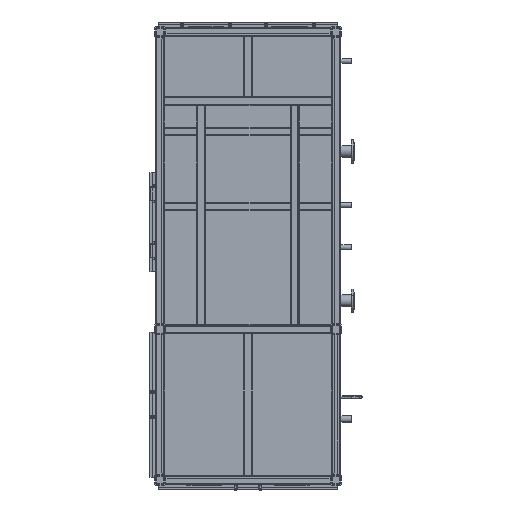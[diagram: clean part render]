
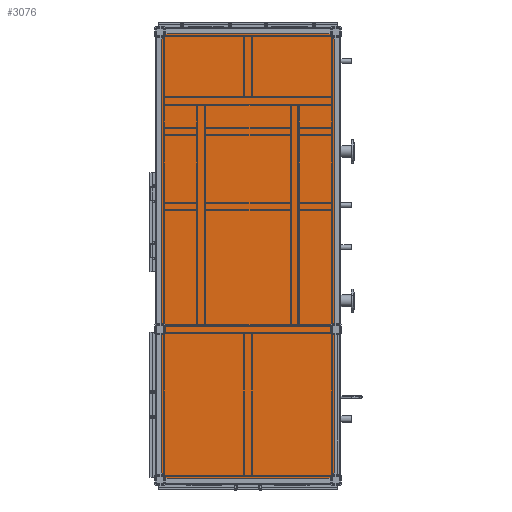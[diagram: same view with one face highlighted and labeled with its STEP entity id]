
A CAD part, front view. The second image highlights one B-rep face of the part: STEP entity #3076.
In plain terms, the highlighted planar face has unit normal (0, -1, 0).
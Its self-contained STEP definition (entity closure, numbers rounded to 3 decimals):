
#3076=ADVANCED_FACE('',(#33868),#33870,.F.);
#33868=FACE_BOUND('',#33869,.T.);
#33869=EDGE_LOOP('',(#90163,#90164,#90165,#90166,#90167,#90168,#90169,#90170,#90171,
#90172,#90173,#90174,#90175,#90176,#90177,#90178,#90179,#90180,#90181,#90182));
#33870=PLANE('',#33871);
#33871=AXIS2_PLACEMENT_3D('',#33872,#33873,#33874);
#33872=CARTESIAN_POINT('',(-1645.,-81.5,-3945.));
#33873=DIRECTION('',(0.,1.,0.));
#33874=DIRECTION('',(1.,0.,0.));
#90163=ORIENTED_EDGE('',*,*,#110924,.F.);
#90164=ORIENTED_EDGE('',*,*,#110922,.F.);
#90165=ORIENTED_EDGE('',*,*,#110541,.F.);
#90166=ORIENTED_EDGE('',*,*,#110817,.F.);
#90167=ORIENTED_EDGE('',*,*,#110500,.F.);
#90168=ORIENTED_EDGE('',*,*,#110507,.F.);
#90169=ORIENTED_EDGE('',*,*,#110504,.T.);
#90170=ORIENTED_EDGE('',*,*,#112711,.T.);
#90171=ORIENTED_EDGE('',*,*,#112712,.T.);
#90172=ORIENTED_EDGE('',*,*,#112713,.T.);
#90173=ORIENTED_EDGE('',*,*,#110490,.T.);
#90174=ORIENTED_EDGE('',*,*,#110498,.F.);
#90175=ORIENTED_EDGE('',*,*,#110496,.F.);
#90176=ORIENTED_EDGE('',*,*,#112714,.F.);
#90177=ORIENTED_EDGE('',*,*,#110523,.F.);
#90178=ORIENTED_EDGE('',*,*,#110935,.F.);
#90179=ORIENTED_EDGE('',*,*,#110934,.F.);
#90180=ORIENTED_EDGE('',*,*,#112715,.F.);
#90181=ORIENTED_EDGE('',*,*,#112716,.F.);
#90182=ORIENTED_EDGE('',*,*,#112717,.F.);
#110490=EDGE_CURVE('',#129072,#129070,#129073,.F.);
#110496=EDGE_CURVE('',#129079,#129081,#129082,.T.);
#110498=EDGE_CURVE('',#129081,#129070,#129084,.T.);
#110500=EDGE_CURVE('',#129085,#129087,#129088,.T.);
#110504=EDGE_CURVE('',#129095,#129093,#129096,.F.);
#110507=EDGE_CURVE('',#129095,#129085,#129099,.T.);
#110523=EDGE_CURVE('',#129122,#129124,#129125,.T.);
#110541=EDGE_CURVE('',#129153,#129155,#129156,.T.);
#110817=EDGE_CURVE('',#129087,#129153,#129569,.T.);
#110922=EDGE_CURVE('',#129155,#129737,#129738,.T.);
#110924=EDGE_CURVE('',#129737,#129740,#129741,.F.);
#110934=EDGE_CURVE('',#129755,#129749,#129757,.F.);
#110935=EDGE_CURVE('',#129749,#129122,#129758,.T.);
#112711=EDGE_CURVE('',#129093,#132431,#132432,.F.);
#112712=EDGE_CURVE('',#132431,#132433,#132434,.F.);
#112713=EDGE_CURVE('',#132433,#129072,#132435,.F.);
#112714=EDGE_CURVE('',#129124,#129079,#132436,.T.);
#112715=EDGE_CURVE('',#132437,#129755,#132438,.T.);
#112716=EDGE_CURVE('',#132439,#132437,#132440,.F.);
#112717=EDGE_CURVE('',#129740,#132439,#132441,.T.);
#129070=VERTEX_POINT('',#166970);
#129072=VERTEX_POINT('',#166974);
#129073=LINE('',#166975,#166976);
#129079=VERTEX_POINT('',#166991);
#129081=VERTEX_POINT('',#166995);
#129082=LINE('',#166996,#166997);
#129084=LINE('',#167002,#167003);
#129085=VERTEX_POINT('',#167005);
#129087=VERTEX_POINT('',#167009);
#129088=LINE('',#167010,#167011);
#129093=VERTEX_POINT('',#167021);
#129095=VERTEX_POINT('',#167025);
#129096=LINE('',#167026,#167027);
#129099=LINE('',#167035,#167036);
#129122=VERTEX_POINT('',#167092);
#129124=VERTEX_POINT('',#167096);
#129125=LINE('',#167097,#167098);
#129153=VERTEX_POINT('',#167161);
#129155=VERTEX_POINT('',#167165);
#129156=LINE('',#167166,#167167);
#129569=LINE('',#168243,#168244);
#129737=VERTEX_POINT('',#168641);
#129738=LINE('',#168642,#168643);
#129740=VERTEX_POINT('',#168648);
#129741=LINE('',#168649,#168650);
#129749=VERTEX_POINT('',#168669);
#129755=VERTEX_POINT('',#168681);
#129757=LINE('',#168685,#168686);
#129758=LINE('',#168688,#168689);
#132431=VERTEX_POINT('',#176394);
#132432=CIRCLE('',#176395,10.);
#132433=VERTEX_POINT('',#176399);
#132434=LINE('',#176400,#176401);
#132435=CIRCLE('',#176403,10.);
#132436=LINE('',#176407,#176408);
#132437=VERTEX_POINT('',#176410);
#132438=CIRCLE('',#176411,10.);
#132439=VERTEX_POINT('',#176415);
#132440=LINE('',#176416,#176417);
#132441=CIRCLE('',#176419,10.);
#166970=CARTESIAN_POINT('',(-1645.,-81.5,-2615.));
#166974=CARTESIAN_POINT('',(-1630.,-81.5,-2615.));
#166975=CARTESIAN_POINT('',(-1645.,-81.5,-2615.));
#166976=VECTOR('',#166977,1.);
#166977=DIRECTION('',(1.,0.,0.));
#166991=CARTESIAN_POINT('',(-1595.,-81.5,-3945.));
#166995=CARTESIAN_POINT('',(-1645.,-81.5,-3895.));
#166996=CARTESIAN_POINT('',(-1595.,-81.5,-3945.));
#166997=VECTOR('',#166998,1.);
#166998=DIRECTION('',(-0.707,0.,0.707));
#167002=CARTESIAN_POINT('',(-1645.,-81.5,-3895.));
#167003=VECTOR('',#167004,1.);
#167004=DIRECTION('',(0.,0.,1.));
#167005=CARTESIAN_POINT('',(-1645.,-81.5,95.));
#167009=CARTESIAN_POINT('',(-1595.,-81.5,145.));
#167010=CARTESIAN_POINT('',(-1645.,-81.5,95.));
#167011=VECTOR('',#167012,1.);
#167012=DIRECTION('',(0.707,0.,0.707));
#167021=CARTESIAN_POINT('',(-1630.,-81.5,-2535.));
#167025=CARTESIAN_POINT('',(-1645.,-81.5,-2535.));
#167026=CARTESIAN_POINT('',(-1630.,-81.5,-2535.));
#167027=VECTOR('',#167028,1.);
#167028=DIRECTION('',(-1.,0.,0.));
#167035=CARTESIAN_POINT('',(-1645.,-81.5,-2535.));
#167036=VECTOR('',#167037,1.);
#167037=DIRECTION('',(0.,0.,1.));
#167092=CARTESIAN_POINT('',(-55.,-81.5,-3895.));
#167096=CARTESIAN_POINT('',(-105.,-81.5,-3945.));
#167097=CARTESIAN_POINT('',(-55.,-81.5,-3895.));
#167098=VECTOR('',#167099,1.);
#167099=DIRECTION('',(-0.707,0.,-0.707));
#167161=CARTESIAN_POINT('',(-105.,-81.5,145.));
#167165=CARTESIAN_POINT('',(-55.,-81.5,95.));
#167166=CARTESIAN_POINT('',(-105.,-81.5,145.));
#167167=VECTOR('',#167168,1.);
#167168=DIRECTION('',(0.707,0.,-0.707));
#168243=CARTESIAN_POINT('',(-1595.,-81.5,145.));
#168244=VECTOR('',#168245,1.);
#168245=DIRECTION('',(1.,0.,0.));
#168641=CARTESIAN_POINT('',(-55.,-81.5,-2535.));
#168642=CARTESIAN_POINT('',(-55.,-81.5,95.));
#168643=VECTOR('',#168644,1.);
#168644=DIRECTION('',(0.,0.,-1.));
#168648=CARTESIAN_POINT('',(-70.,-81.5,-2535.));
#168649=CARTESIAN_POINT('',(-70.,-81.5,-2535.));
#168650=VECTOR('',#168651,1.);
#168651=DIRECTION('',(1.,0.,0.));
#168669=CARTESIAN_POINT('',(-55.,-81.5,-2615.));
#168681=CARTESIAN_POINT('',(-70.,-81.5,-2615.));
#168685=CARTESIAN_POINT('',(-55.,-81.5,-2615.));
#168686=VECTOR('',#168687,1.);
#168687=DIRECTION('',(-1.,0.,0.));
#168688=CARTESIAN_POINT('',(-55.,-81.5,-2615.));
#168689=VECTOR('',#168690,1.);
#168690=DIRECTION('',(0.,0.,-1.));
#176394=CARTESIAN_POINT('',(-1620.,-81.5,-2545.));
#176395=AXIS2_PLACEMENT_3D('',#176396,#176397,#176398);
#176396=CARTESIAN_POINT('',(-1630.,-81.5,-2545.));
#176397=DIRECTION('',(0.,-1.,0.));
#176398=DIRECTION('',(1.,0.,0.));
#176399=CARTESIAN_POINT('',(-1620.,-81.5,-2605.));
#176400=CARTESIAN_POINT('',(-1620.,-81.5,-2605.));
#176401=VECTOR('',#176402,1.);
#176402=DIRECTION('',(0.,0.,1.));
#176403=AXIS2_PLACEMENT_3D('',#176404,#176405,#176406);
#176404=CARTESIAN_POINT('',(-1630.,-81.5,-2605.));
#176405=DIRECTION('',(0.,-1.,0.));
#176406=DIRECTION('',(0.,0.,-1.));
#176407=CARTESIAN_POINT('',(-105.,-81.5,-3945.));
#176408=VECTOR('',#176409,1.);
#176409=DIRECTION('',(-1.,0.,0.));
#176410=CARTESIAN_POINT('',(-80.,-81.5,-2605.));
#176411=AXIS2_PLACEMENT_3D('',#176412,#176413,#176414);
#176412=CARTESIAN_POINT('',(-70.,-81.5,-2605.));
#176413=DIRECTION('',(0.,-1.,0.));
#176414=DIRECTION('',(-1.,0.,0.));
#176415=CARTESIAN_POINT('',(-80.,-81.5,-2545.));
#176416=CARTESIAN_POINT('',(-80.,-81.5,-2605.));
#176417=VECTOR('',#176418,1.);
#176418=DIRECTION('',(0.,0.,1.));
#176419=AXIS2_PLACEMENT_3D('',#176420,#176421,#176422);
#176420=CARTESIAN_POINT('',(-70.,-81.5,-2545.));
#176421=DIRECTION('',(0.,-1.,0.));
#176422=DIRECTION('',(0.,0.,1.));
